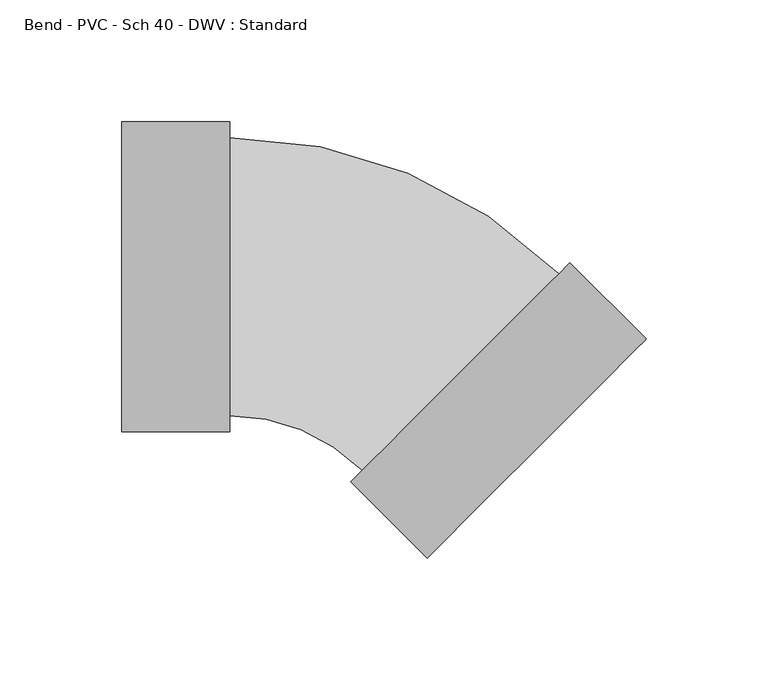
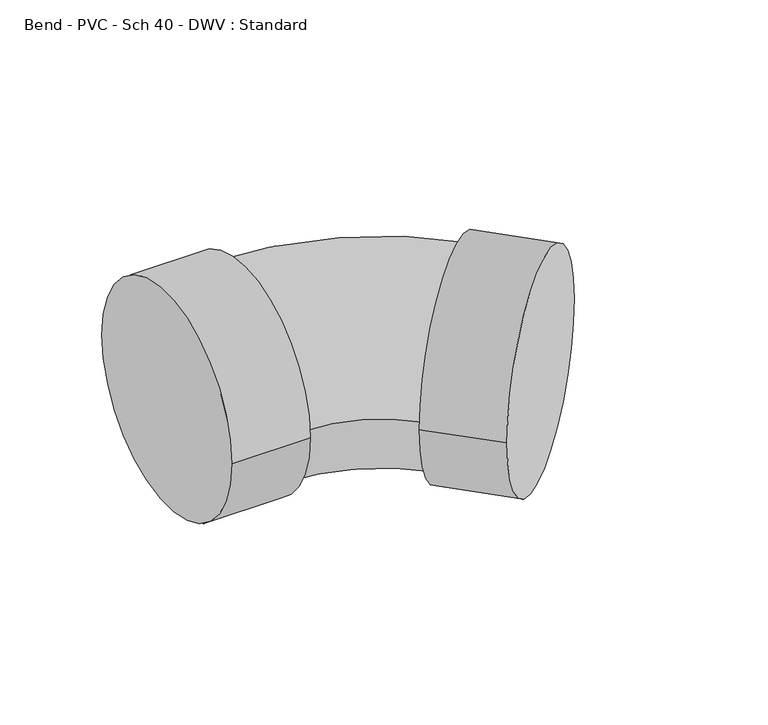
"""IFC4 building model written with IfcOpenShell, lengths in millimetres: pipe fitting geometry, Bend - PVC - Sch 40 - DWV : Standard."""

from ifc_helpers import new_model, si_unit, point, frame, origin, place, context, project, spatial, circle_curve, ellipse_curve, trimmed, source, transform, mapped, element, save
from ifc_brep_helpers import plane_surface, cylinder_surface, revolved_surface, advanced_brep


def bend_pvc_sch_40_dwv_standard_f8d707d2(model_context):
    return source(origin(), model_context, "Body", "AdvancedBrep", [
        advanced_brep(
        [(-100.0252, 63.754, 0.0), (-100.0252, -63.754, 0.0), (-55.5752, 63.754, 0.0), (-55.5752, -63.754, 0.0), (-55.5752, 57.15, 0.0), (-55.5752, -57.15, 0.0), (-1.1093249, -79.7088123, 0.0), (79.7086942, 1.1177786, 0.0), (84.3781797, 5.7877594, 0.0), (-5.7788104, -84.3787931, 0.0), (115.8107428, -25.6414702, 0.0), (25.6537527, -115.8080227, 0.0)],
        [
            (0, 1, circle_curve(frame((-100.0252, 0.0, 0.0), z_axis=(-1.0, 0.0, 0.0), x_axis=(0.0, -1.0, 0.0)), 63.754)),
            (1, 0, circle_curve(frame((-100.0252, 0.0, 0.0), z_axis=(-1.0, 0.0, 0.0), x_axis=(0.0, -1.0, 0.0)), 63.754)),
            (2, 3, circle_curve(frame((-55.5752, 0.0, 0.0), z_axis=(1.0, 0.0, 0.0), x_axis=(0.0, -1.0, 0.0)), 63.754)),
            (3, 2, circle_curve(frame((-55.5752, 0.0, 0.0), z_axis=(1.0, 0.0, 0.0), x_axis=(0.0, -1.0, 0.0)), 63.754)),
            (4, 5, circle_curve(frame((-55.5752, 0.0, 0.0), z_axis=(-1.0, 0.0, 0.0), x_axis=(0.0, -1.0, 0.0)), 57.15)),
            (5, 4, circle_curve(frame((-55.5752, 0.0, 0.0), z_axis=(-1.0, 0.0, 0.0), x_axis=(0.0, -1.0, 0.0)), 57.15)),
            (1, 3),
            (2, 0),
            (6, 7, circle_curve(frame((39.2996846, -39.2955168, 0.0), z_axis=(-0.7071442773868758, 0.7070692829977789, 0.0), x_axis=(-0.7070692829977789, -0.7071442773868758, 0.0)), 57.15)),
            (7, 4, circle_curve(frame((-55.5752, -134.1804642, 0.0), z_axis=(0.0, 0.0, 1.0), x_axis=(0.0, 1.0, 0.0)), 191.3304642)),
            (5, 6, circle_curve(frame((-55.5752, -134.1804642, 0.0), z_axis=(0.0, 0.0, -1.0), x_axis=(0.0, 1.0, 0.0)), 77.0304642)),
            (7, 6, circle_curve(frame((39.2996846, -39.2955168, 0.0), z_axis=(-0.7071442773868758, 0.7070692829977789, 0.0), x_axis=(-0.7070692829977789, -0.7071442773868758, 0.0)), 57.15)),
            (8, 9, circle_curve(frame((39.2996846, -39.2955168, 0.0), z_axis=(-0.7071442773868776, 0.7070692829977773, 0.0), x_axis=(-0.7070692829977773, -0.7071442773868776, 0.0)), 63.754)),
            (9, 8, circle_curve(frame((39.2996846, -39.2955168, 0.0), z_axis=(-0.7071442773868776, 0.7070692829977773, 0.0), x_axis=(-0.7070692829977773, -0.7071442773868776, 0.0)), 63.754)),
            (10, 11, circle_curve(frame((70.7322478, -70.7247464, 0.0), z_axis=(0.7071442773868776, -0.7070692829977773, 0.0), x_axis=(-0.7070692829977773, -0.7071442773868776, 0.0)), 63.754)),
            (11, 10, circle_curve(frame((70.7322478, -70.7247464, 0.0), z_axis=(0.7071442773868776, -0.7070692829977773, 0.0), x_axis=(-0.7070692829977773, -0.7071442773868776, 0.0)), 63.754)),
            (9, 11),
            (10, 8),
        ],
        [
            plane_surface(frame((-100.0252, 0.0, 0.0), z_axis=(-1.0, 0.0, 0.0), x_axis=(0.0, 0.0, 1.0))),
            plane_surface(frame((-55.5752, 0.0, 0.0), z_axis=(1.0, 0.0, 0.0), x_axis=(0.0, 0.0, 1.0))),
            cylinder_surface(frame((-100.0252, 0.0, 0.0), z_axis=(-1.0, 0.0, 0.0), x_axis=(0.0, -1.0, 0.0)), 63.754),
            revolved_surface(trimmed(ellipse_curve(frame((-55.5752, 0.0, 0.0), z_axis=(1.0, 0.0, 0.0), x_axis=(0.0, -1.0, 0.0)), 57.15, 57.15), [point((-55.5752, 57.15, 0.0))], [point((-55.5752, -57.15, 0.0))], True, "CARTESIAN"), (-55.5752, -134.1804642, 0.0), (0.0, 0.0, 1.0)),
            revolved_surface(trimmed(ellipse_curve(frame((-55.5752, 0.0, 0.0), z_axis=(1.0, 0.0, 0.0), x_axis=(0.0, -1.0, 0.0)), 57.15, 57.15), [point((-55.5752, -57.15, 0.0))], [point((-55.5752, 57.15, 0.0))], True, "CARTESIAN"), (-55.5752, -134.1804642, 0.0), (0.0, 0.0, 1.0)),
            plane_surface(frame((39.2996846, -39.2955168, 0.0), z_axis=(-0.7071442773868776, 0.7070692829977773, 0.0), x_axis=(0.0, 0.0, 1.0))),
            plane_surface(frame((70.7322478, -70.7247464, 0.0), z_axis=(0.7071442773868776, -0.7070692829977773, 0.0), x_axis=(0.0, 0.0, 1.0))),
            cylinder_surface(frame((39.2996846, -39.2955168, 0.0), z_axis=(-0.7071442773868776, 0.7070692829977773, 0.0), x_axis=(-0.7070692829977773, -0.7071442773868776, 0.0)), 63.754),
        ],
        [
            (0, [[1, 2]]),
            (1, [[3, 4], [5, 6]]),
            (2, [[7, -3, 8, -2]]),
            (2, [[-8, -4, -7, -1]]),
            (3, [[9, 10, -6, 11]]),
            (4, [[-5, -10, 12, -11]]),
            (5, [[13, 14], [-12, -9]]),
            (6, [[15, 16]]),
            (7, [[17, -15, 18, -14]]),
            (7, [[-18, -16, -17, -13]]),
        ],
    ),
    ])


if __name__ == "__main__":
    model = new_model("IFC4")
    model_context = context("Model", 3, world=origin())
    ifc_project = project(units=[si_unit("LENGTHUNIT", "METRE", prefix="MILLI")], contexts=[model_context])
    site = spatial("IfcSite", under=ifc_project)
    building = spatial("IfcBuilding", under=site)
    placement = place(None, origin())
    bend_pvc_sch_40_dwv_standard_shape = bend_pvc_sch_40_dwv_standard_f8d707d2(model_context)
    element("IfcPipeFitting", 1, ObjectType="Bend - PVC - Sch 40 - DWV : Standard", at=placement, inside=building, context=model_context, shape_type="MappedRepresentation", body=[
        mapped(bend_pvc_sch_40_dwv_standard_shape, transform((0.0, 0.0, 0.0), x_axis=(1.0, 0.0, 0.0), y_axis=(0.0, 1.0, 0.0), z_axis=(0.0, 0.0, 1.0))),
    ])
    save(model, "model.ifc")
